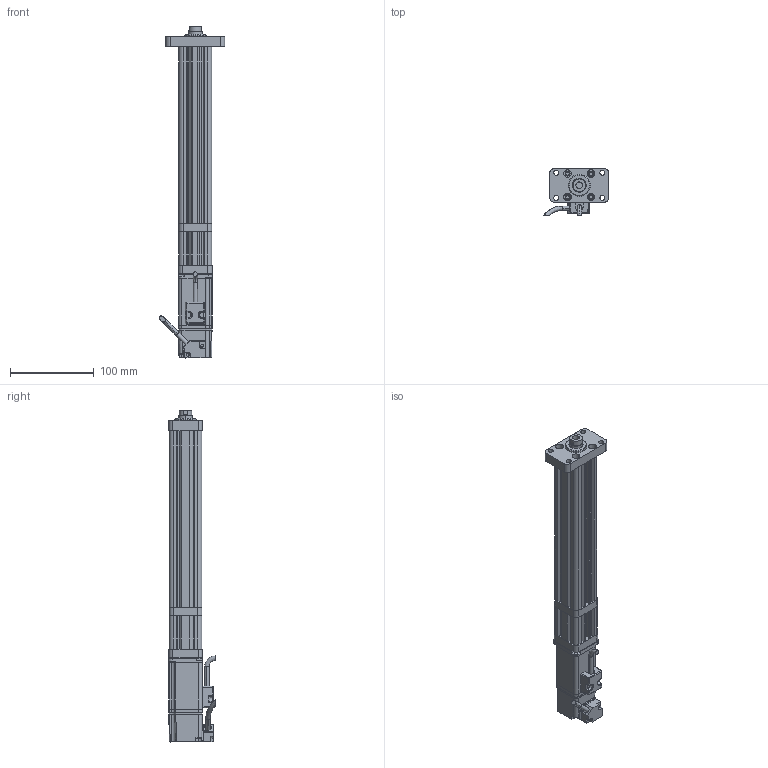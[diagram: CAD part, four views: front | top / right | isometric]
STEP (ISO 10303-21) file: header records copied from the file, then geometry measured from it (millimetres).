
FILE_DESCRIPTION (( 'STEP AP214' ), '1' );
FILE_NAME ('039-S150-D02-A-M3-C2-2.STEP', '2021-03-02T05:30:06', ( '' ), ( '' ), 'SwSTEP 2.0', 'SolidWorks 2018', '' );
FILE_SCHEMA (( 'AUTOMOTIVE_DESIGN' ));
Length unit declared in the file: millimetre
Products named in the file (8): CMC039-DJZ; CMC039-GT; CMC039-AZB; ECMA-CX0401ES-40框號系列機種-100W低慣量系列; CMC039-DT; CMC039-FL1; 039-S150-D02-A-M3-C2-2; CMC039-ZLLJB
Assembly tree (7 placements, depth 2):
  039-S150-D02-A-M3-C2-2
    CMC039-GT
    CMC039-DT
    CMC039-ZLLJB
    CMC039-DJZ
    ECMA-CX0401ES-40框號系列機種-100W低慣量系列
    CMC039-AZB
    CMC039-FL1
Bounding box: 77.84 x 55.39 x 395.6 mm (x, y, z)
Volume: 435105.8 mm3; surface area: 137561.2 mm2
Topology: 7 solids, 15 shells, 713 faces, 1880 edges, 1181 vertices
Faces by surface type: cylinder 298, plane 292, bspline 84, cone 39
Entity records: 28208 total; most frequent: CARTESIAN_POINT 11266, ORIENTED_EDGE 3694, DIRECTION 3033, EDGE_CURVE 1847, VERTEX_POINT 1181, AXIS2_PLACEMENT_3D 1035, LINE 963, VECTOR 963
